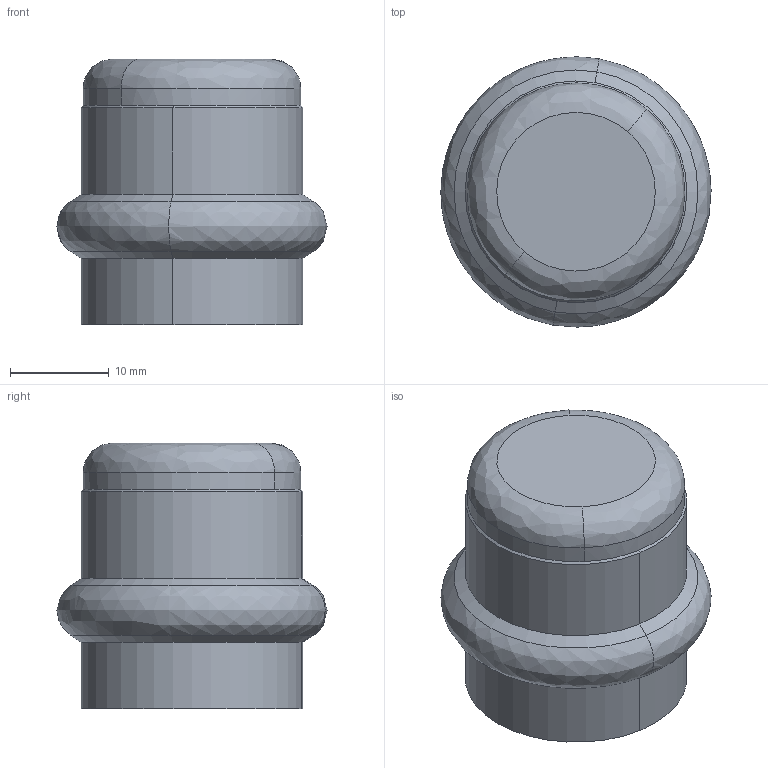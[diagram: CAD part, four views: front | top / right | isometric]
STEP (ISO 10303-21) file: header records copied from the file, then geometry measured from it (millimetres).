
FILE_DESCRIPTION(('STEP AP214'),'1');
FILE_NAME('pim0004608.stp','2017-05-10T06:39:44',('cad-pim'),('TransMagic, Inc.'),'TMR12sp0','TransMagic R12',' ');
FILE_SCHEMA(('AUTOMOTIVE_DESIGN'));
Length unit declared in the file: millimetre
Products named in the file (1): pim0004608 (1)
Bounding box: 27.42 x 27.42 x 27 mm (x, y, z)
Volume: 5157.7 mm3; surface area: 4142.3 mm2
Topology: 1 solids, 1 shells, 21 faces, 42 edges, 24 vertices
Faces by surface type: bspline 21
Entity records: 1172 total; most frequent: CARTESIAN_POINT 287, STYLED_ITEM 88, PRESENTATION_STYLE_ASSIGNMENT 88, COLOUR_RGB 88, ORIENTED_EDGE 84, DIRECTION 64, EDGE_CURVE 42, CURVE_STYLE 42
